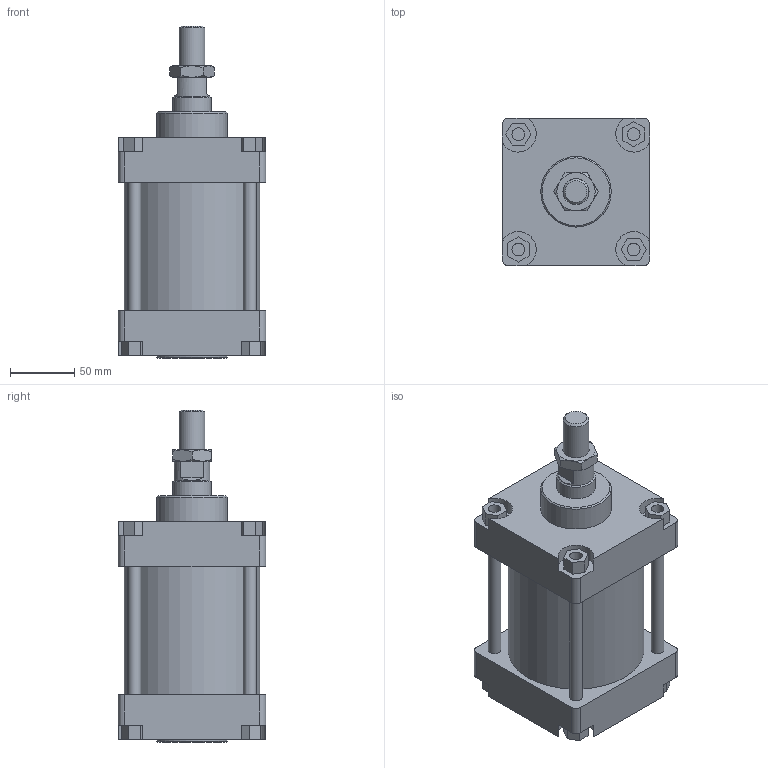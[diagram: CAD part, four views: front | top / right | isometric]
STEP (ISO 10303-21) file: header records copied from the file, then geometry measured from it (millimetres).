
FILE_DESCRIPTION(/* description */ (''),/* implementation_level */ '2;1');
FILE_NAME(/* name */ 'I:\Area Tecnica\Disegni\VARIE-3D\Componenti\CSP\Ø100\130#_100_####_###\130#_100_0025_01A.stp',/* time_stamp */ '2016-11-24T13:50:22+01:00',/* author */ ('Maniean1'),/* organization */ ('Pneumax S.p.A.'),/* preprocessor_version */ 'ST-DEVELOPER v15.2',/* originating_system */ 'Autodesk Inventor 2014',/* authorisation */ '');
FILE_SCHEMA (('AUTOMOTIVE_DESIGN { 1 0 10303 214 3 1 1 }'));
Length unit declared in the file: millimetre
Products named in the file (6): C_130#_100_0025; Testata anteriore_100; Testata posteriore_100; S_130#_100_0025_01A; 130#_100_18F; 130#_100_0025_01A
Bounding box: 115 x 115 x 259 mm (x, y, z)
Volume: 1655177.9 mm3; surface area: 245614 mm2
Topology: 9 solids, 9 shells, 162 faces, 380 edges, 249 vertices
Faces by surface type: plane 105, cylinder 42, cone 15
Full cylindrical faces by diameter (mm): 10 x12, 18.376 x1, 18.5 x1, 19 x2, 20 x1, 28 x1, 30 x3, 55 x2, 100 x2, 106 x1
Entity records: 4530 total; most frequent: CARTESIAN_POINT 785, DIRECTION 764, ORIENTED_EDGE 672, EDGE_CURVE 336, AXIS2_PLACEMENT_3D 271, VERTEX_POINT 244, EDGE_LOOP 236, LINE 222
